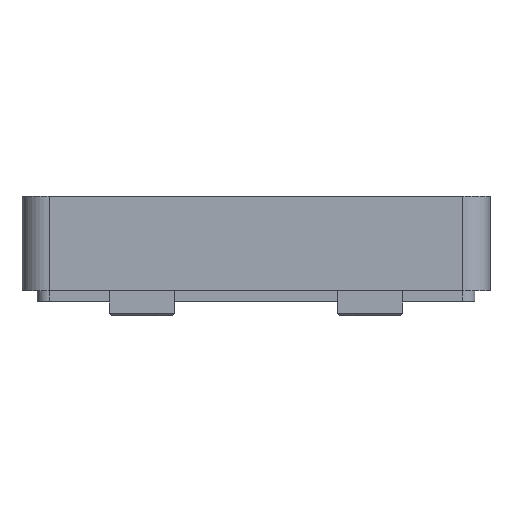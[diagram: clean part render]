
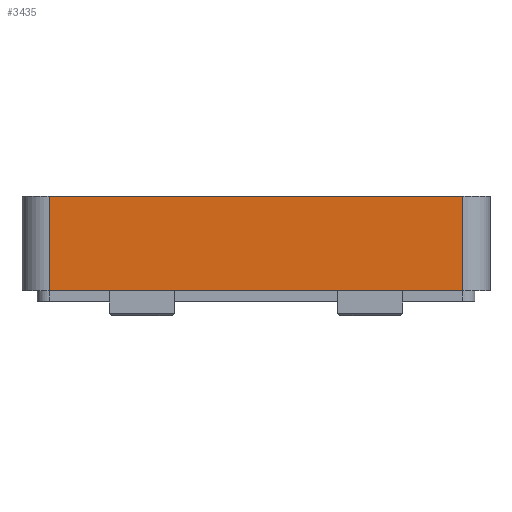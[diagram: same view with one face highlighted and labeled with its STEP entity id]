
A CAD part, front view. The second image highlights one B-rep face of the part: STEP entity #3435.
In plain terms, the highlighted planar face has unit normal (0, -1, 0).
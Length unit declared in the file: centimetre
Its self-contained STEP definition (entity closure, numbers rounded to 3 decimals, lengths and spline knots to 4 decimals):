
#159=PLANE('',#3793);
#344=FACE_OUTER_BOUND('',#548,.T.);
#548=EDGE_LOOP('',(#3171,#3172,#3173,#3174));
#622=LINE('',#4983,#955);
#879=LINE('',#6053,#1212);
#886=LINE('',#6075,#1219);
#887=LINE('',#6077,#1220);
#955=VECTOR('',#3932,1.);
#1212=VECTOR('',#4781,1.);
#1219=VECTOR('',#4812,1.);
#1220=VECTOR('',#4815,1.);
#1442=VERTEX_POINT('',#4980);
#1443=VERTEX_POINT('',#4982);
#1702=VERTEX_POINT('',#6052);
#1705=VERTEX_POINT('',#6073);
#1785=EDGE_CURVE('',#1443,#1442,#622,.T.);
#2188=EDGE_CURVE('',#1443,#1702,#879,.T.);
#2198=EDGE_CURVE('',#1442,#1705,#886,.T.);
#2199=EDGE_CURVE('',#1702,#1705,#887,.T.);
#3171=ORIENTED_EDGE('',*,*,#2198,.T.);
#3172=ORIENTED_EDGE('',*,*,#2199,.F.);
#3173=ORIENTED_EDGE('',*,*,#2188,.F.);
#3174=ORIENTED_EDGE('',*,*,#1785,.T.);
#3435=ADVANCED_FACE('',(#344),#159,.T.);
#3793=AXIS2_PLACEMENT_3D('',#6076,#4813,#4814);
#3932=DIRECTION('',(1.,0.,0.));
#4781=DIRECTION('',(0.,0.,1.));
#4812=DIRECTION('',(0.,0.,1.));
#4813=DIRECTION('center_axis',(0.,-1.,0.));
#4814=DIRECTION('ref_axis',(1.,0.,0.));
#4815=DIRECTION('',(1.,0.,0.));
#4980=CARTESIAN_POINT('',(3.8,-5.2,2.76));
#4982=CARTESIAN_POINT('',(-3.8,-5.2,2.76));
#4983=CARTESIAN_POINT('',(-3.8,-5.2,2.76));
#6052=CARTESIAN_POINT('',(-3.8,-5.2,4.49));
#6053=CARTESIAN_POINT('',(-3.8,-5.2,2.76));
#6073=CARTESIAN_POINT('',(3.8,-5.2,4.49));
#6075=CARTESIAN_POINT('',(3.8,-5.2,2.76));
#6076=CARTESIAN_POINT('Origin',(-3.8,-5.2,2.76));
#6077=CARTESIAN_POINT('',(-3.8,-5.2,4.49));
